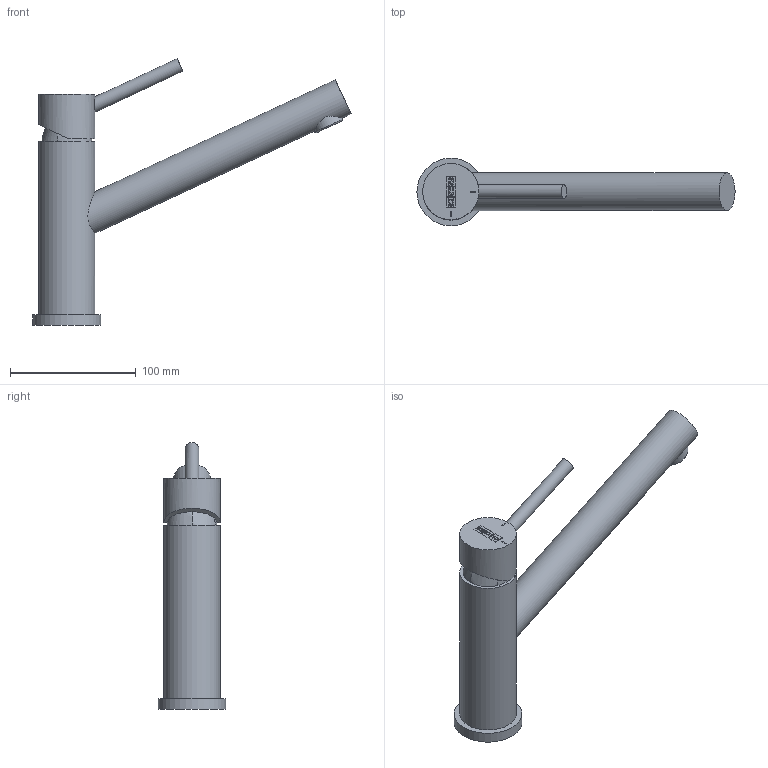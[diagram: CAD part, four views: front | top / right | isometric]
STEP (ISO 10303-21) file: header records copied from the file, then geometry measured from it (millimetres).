
FILE_DESCRIPTION(/* description */ (''),/* implementation_level */ '2;1');
FILE_NAME(/* name */ '3D001_Taps_Orbit_Swivel-SS',/* time_stamp */ '2024-01-31T15:28:37+01:00',/* author */ (''),/* organization */ (''),/* preprocessor_version */ 'ST-DEVELOPER v19.2',/* originating_system */ 'Rhino 8.3',/* authorisation */ '');
FILE_SCHEMA (('CONFIG_CONTROL_DESIGN'));
Length unit declared in the file: millimetre
Products named in the file (3): Document; LOGO_CALDO_FREDDO_TOP; LOGO_CALDO_FREDDO_TOP 01
Bounding box: 253.26 x 54 x 212.42 mm (x, y, z)
Volume: 457537.9 mm3; surface area: 55250.9 mm2
Topology: 8 solids, 8 shells, 178 faces, 480 edges, 323 vertices
Faces by surface type: plane 167, cylinder 6, bspline 5
Full cylindrical faces by diameter (mm): 11 x1, 24.5 x1, 30 x1, 44.8 x2, 54 x1
Entity records: 5549 total; most frequent: CARTESIAN_POINT 1835, ORIENTED_EDGE 960, EDGE_CURVE 480, B_SPLINE_CURVE_WITH_KNOTS 454, VERTEX_POINT 323, DIRECTION 235, AXIS2_PLACEMENT_3D 204, EDGE_LOOP 195
